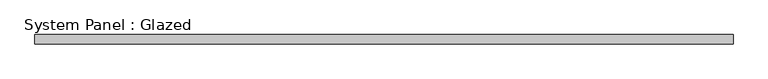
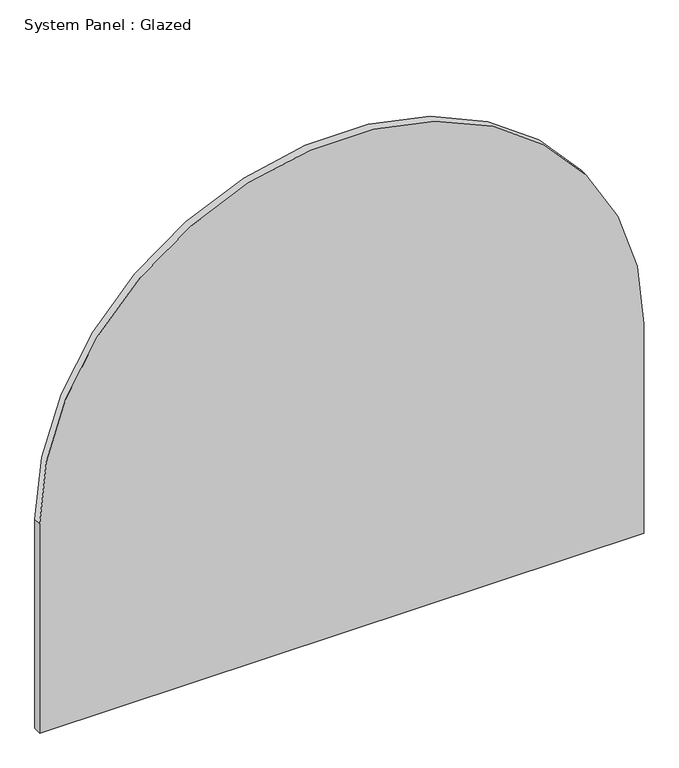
"""IFC4 building model written with IfcOpenShell, lengths in millimetres: plate geometry, System Panel : Glazed."""

import ifcopenshell
import ifcopenshell.guid

model = None  # the IFC model being written
_history = None  # IfcOwnerHistory: only IFC2X3 demands one
_inside = {}  # id of a spatial element -> (the spatial element, [elements in it])
_under = {}  # id of a project, library or spatial element -> (it, [spatial elements below it])
_declared = {}  # id of a project -> (the project, [libraries it declares])
_typed = {}  # id of a type object -> (the type object, [elements of that type])
_made_of = {}  # id of a material, layer set ... -> (it, [elements and type objects made of it])


def new_model(schema):
    """Start an empty IFC model of exactly this schema.

    Asked for "IFC4X3", IfcOpenShell would pick the latest addendum, in which some entities
    have other attributes; the version numbers below select the first issue.
    IFC2X3 requires an IfcOwnerHistory on every rooted entity: one is made here for all.
    """
    global model, _history
    if schema == "IFC4X3":
        model = ifcopenshell.file(schema_version=(4, 3, 0, 0))
    else:
        model = ifcopenshell.file(schema=schema)
    _inside.clear()
    _under.clear()
    _declared.clear()
    _typed.clear()
    _made_of.clear()
    _history = None
    if model.schema == "IFC2X3":
        org = make("IfcOrganization", Name="unknown")
        user = make(
            "IfcPersonAndOrganization",
            ThePerson=make("IfcPerson", FamilyName="unknown"),
            TheOrganization=org,
        )
        app = make(
            "IfcApplication",
            ApplicationDeveloper=org,
            Version="unknown",
            ApplicationFullName="unknown",
            ApplicationIdentifier="unknown",
        )
        _history = make(
            "IfcOwnerHistory",
            OwningUser=user,
            OwningApplication=app,
            ChangeAction="ADDED",
            CreationDate=0,
        )
    return model


def make(cls, **values):
    """One entity of the class cls with the attributes given. An attribute that is None is left unset."""
    return model.create_entity(
        cls, **{name: value for name, value in values.items() if value is not None}
    )


def rooted(cls, **values):
    """An entity with a GlobalId (a new one), such as an element, a storey or a relation."""
    return make(cls, GlobalId=ifcopenshell.guid.new(), OwnerHistory=_history, **values)


def si_unit(unit_type, name, prefix=None):
    """IfcSIUnit, for example si_unit("LENGTHUNIT", "METRE", prefix="MILLI")."""
    return make("IfcSIUnit", UnitType=unit_type, Prefix=prefix, Name=name)


def assignment(units):
    """IfcUnitAssignment: the units of a project."""
    return None if units is None else make("IfcUnitAssignment", Units=units)


def point(xyz):
    """IfcCartesianPoint."""
    return None if xyz is None else make("IfcCartesianPoint", Coordinates=xyz)


def direction(xyz):
    """IfcDirection."""
    return None if xyz is None else make("IfcDirection", DirectionRatios=xyz)


def frame(location, z_axis=None, x_axis=None):
    """IfcAxis2Placement3D, a coordinate frame: its origin and axes. An axis left out is left unset."""
    return make(
        "IfcAxis2Placement3D",
        Location=point(location),
        Axis=direction(z_axis),
        RefDirection=direction(x_axis),
    )


def frame_2d(location, x_axis=None):
    """IfcAxis2Placement2D, a coordinate frame in the plane: its origin and x axis."""
    return make(
        "IfcAxis2Placement2D", Location=point(location), RefDirection=direction(x_axis)
    )


def origin():
    """The frame at (0, 0, 0) with its axes left unset."""
    return frame((0.0, 0.0, 0.0))


def place(relative_to, where):
    """IfcLocalPlacement: puts the frame where relative to a parent placement (None: the world)."""
    return make(
        "IfcLocalPlacement", PlacementRelTo=relative_to, RelativePlacement=where
    )


def context(
    kind, dimensions, precision=None, world=None, true_north=None, identifier=None
):
    """IfcGeometricRepresentationContext, for example the 3D "Model" context."""
    return make(
        "IfcGeometricRepresentationContext",
        ContextIdentifier=identifier,
        ContextType=kind,
        CoordinateSpaceDimension=dimensions,
        Precision=precision,
        WorldCoordinateSystem=world,
        TrueNorth=true_north,
    )


def project(units=None, contexts=None):
    """IfcProject with its units and contexts."""
    return rooted(
        "IfcProject",
        Name="project",
        RepresentationContexts=contexts,
        UnitsInContext=assignment(units),
    )


def spatial(cls, under=None, at=None, **own):
    """A site, building, storey or space (cls), placed at a placement, below another one or the project."""
    s = rooted(cls, ObjectPlacement=at, **own)
    if under is not None:
        _under.setdefault(under.id(), (under, []))[1].append(s)
    return s


def polyline(points):
    """IfcPolyline through the points."""
    return make("IfcPolyline", Points=[point(p) for p in points])


def circle_curve(where, radius):
    """IfcCircle in the frame where."""
    return make("IfcCircle", Position=where, Radius=radius)


def trimmed(basis, trim1, trim2, sense, master):
    """IfcTrimmedCurve: the piece of a basis curve between two trims."""
    return make(
        "IfcTrimmedCurve",
        BasisCurve=basis,
        Trim1=trim1,
        Trim2=trim2,
        SenseAgreement=sense,
        MasterRepresentation=master,
    )


def segment(curve, same_sense, transition):
    """IfcCompositeCurveSegment."""
    return make(
        "IfcCompositeCurveSegment",
        Transition=transition,
        SameSense=same_sense,
        ParentCurve=curve,
    )


def composite_curve(segments, self_intersect=None):
    """IfcCompositeCurve: segments joined end to end."""
    return make("IfcCompositeCurve", Segments=segments, SelfIntersect=self_intersect)


def outline(outer, holes=None, kind="AREA"):
    """IfcArbitraryClosedProfileDef: a profile drawn as a closed curve; with holes, ...WithVoids."""
    if holes is None:
        return make("IfcArbitraryClosedProfileDef", ProfileType=kind, OuterCurve=outer)
    return make(
        "IfcArbitraryProfileDefWithVoids",
        ProfileType=kind,
        OuterCurve=outer,
        InnerCurves=holes,
    )


def extrude(swept, where, along, depth):
    """IfcExtrudedAreaSolid: the profile swept, set in the frame where, extruded along a direction by depth."""
    return make(
        "IfcExtrudedAreaSolid",
        SweptArea=swept,
        Position=where,
        ExtrudedDirection=direction(along),
        Depth=depth,
    )


def shape(context_of_items, identifier, shape_type, items):
    """IfcShapeRepresentation: the items that make up one representation, for example the "Body"."""
    return make(
        "IfcShapeRepresentation",
        ContextOfItems=context_of_items,
        RepresentationIdentifier=identifier,
        RepresentationType=shape_type,
        Items=items,
    )


def source(mapping_origin, context_of_items, identifier, shape_type, items):
    """IfcRepresentationMap: a shape defined once, which mapped items show again and again."""
    return make(
        "IfcRepresentationMap",
        MappingOrigin=mapping_origin,
        MappedRepresentation=shape(context_of_items, identifier, shape_type, items),
    )


def transform(
    local_origin,
    x_axis=None,
    y_axis=None,
    z_axis=None,
    scale=None,
    scale2=None,
    scale3=None,
    uniform=True,
):
    """IfcCartesianTransformationOperator3D, or its non-uniform kind. x_axis, y_axis, z_axis: its Axis1, 2, 3."""
    if uniform:
        return make(
            "IfcCartesianTransformationOperator3D",
            Axis1=direction(x_axis),
            Axis2=direction(y_axis),
            LocalOrigin=point(local_origin),
            Scale=scale,
            Axis3=direction(z_axis),
        )
    return make(
        "IfcCartesianTransformationOperator3DnonUniform",
        Axis1=direction(x_axis),
        Axis2=direction(y_axis),
        LocalOrigin=point(local_origin),
        Scale=scale,
        Axis3=direction(z_axis),
        Scale2=scale2,
        Scale3=scale3,
    )


def mapped(mapping_source, mapping_target):
    """IfcMappedItem: shows the shape of a source again, moved by a transform."""
    return make(
        "IfcMappedItem", MappingSource=mapping_source, MappingTarget=mapping_target
    )


def made_of(thing, what):
    """Note that an element or type object is made of a material, layer set ...; save() writes the relation."""
    if what is not None:
        _made_of.setdefault(what.id(), (what, []))[1].append(thing)
    return thing


def element(
    cls,
    number,
    at=None,
    inside=None,
    cuts=None,
    type_object=None,
    material=None,
    context=None,
    identifier="Body",
    shape_type=None,
    held_by="IfcProductDefinitionShape",
    body=None,
    shapes=None,
    **own,
):
    """One element of the class cls, such as IfcWall. Its Tag is "e" and its number.

    at: its placement. inside: the storey or other place that contains it. cuts: it is an
    opening in that element (IfcRelVoidsElement). A single representation is given by context,
    identifier, shape_type and body (its items); several are given by shapes. held_by: the class
    of the entity that holds the representations. save() writes the other relations.
    """
    e = rooted(cls, Tag="e%d" % number, ObjectPlacement=at, **own)
    if body is not None:
        shapes = [shape(context, identifier, shape_type, body)]
    if shapes is not None:
        e.Representation = make(held_by, Representations=shapes)
    if inside is not None:
        _inside.setdefault(inside.id(), (inside, []))[1].append(e)
    if cuts is not None:
        rooted(
            "IfcRelVoidsElement", RelatingBuildingElement=cuts, RelatedOpeningElement=e
        )
    if type_object is not None:
        _typed.setdefault(type_object.id(), (type_object, []))[1].append(e)
    return made_of(e, material)


def aggregate(whole, parts):
    """IfcRelAggregates: a whole, such as a stair, and the parts it consists of."""
    return rooted("IfcRelAggregates", RelatingObject=whole, RelatedObjects=parts)


def save(model, path):
    """Write the relations noted so far, then the file.

    IfcRelAggregates (storeys below a building ...), IfcRelContainedInSpatialStructure (elements
    in a storey), IfcRelDefinesByType, IfcRelAssociatesMaterial and IfcRelDeclares: one each for
    every whole, place, type object, material and project.
    """
    for whole, parts in _under.values():
        aggregate(whole, parts)
    for where, things in _inside.values():
        rooted(
            "IfcRelContainedInSpatialStructure",
            RelatedElements=things,
            RelatingStructure=where,
        )
    for kind, things in _typed.values():
        rooted("IfcRelDefinesByType", RelatedObjects=things, RelatingType=kind)
    for what, things in _made_of.values():
        rooted("IfcRelAssociatesMaterial", RelatedObjects=things, RelatingMaterial=what)
    for by, libraries in _declared.values():
        rooted("IfcRelDeclares", RelatingContext=by, RelatedDefinitions=libraries)
    model.write(path)


def system_panel_glazed_e6b3609a(model_context):
    return source(origin(), model_context, "Body", "SweptSolid", [
        extrude(outline(composite_curve([segment(polyline([(0.0, -936.5), (0.0, 936.5), (686.5, 936.5)]), True, "CONTINUOUS"), segment(trimmed(circle_curve(frame_2d((686.5, 0.0)), 936.5), [point((686.5, 936.5))], [point((686.5, -936.5))], False, "CARTESIAN"), True, "CONTINUOUS"), segment(polyline([(686.5, -936.5), (0.0, -936.5)]), True, "CONTINUOUS")], self_intersect=False)), frame((0.0, 19.05, 0.0), z_axis=(0.0, 1.0, 0.0), x_axis=(0.0, 0.0, 1.0)), (0.0, 0.0, 1.0), 25.4),
    ])


if __name__ == "__main__":
    model = new_model("IFC4")
    model_context = context("Model", 3, world=origin())
    ifc_project = project(units=[si_unit("LENGTHUNIT", "METRE", prefix="MILLI")], contexts=[model_context])
    site = spatial("IfcSite", under=ifc_project)
    building = spatial("IfcBuilding", under=site)
    placement = place(None, origin())
    system_panel_glazed_shape = system_panel_glazed_e6b3609a(model_context)
    element("IfcPlate", 1, ObjectType="System Panel : Glazed", at=placement, inside=building, context=model_context, shape_type="MappedRepresentation", body=[
        mapped(system_panel_glazed_shape, transform((0.0, 0.0, 0.0), x_axis=(1.0, 0.0, 0.0), y_axis=(0.0, 1.0, 0.0), z_axis=(0.0, 0.0, 1.0))),
    ])
    save(model, "model.ifc")
